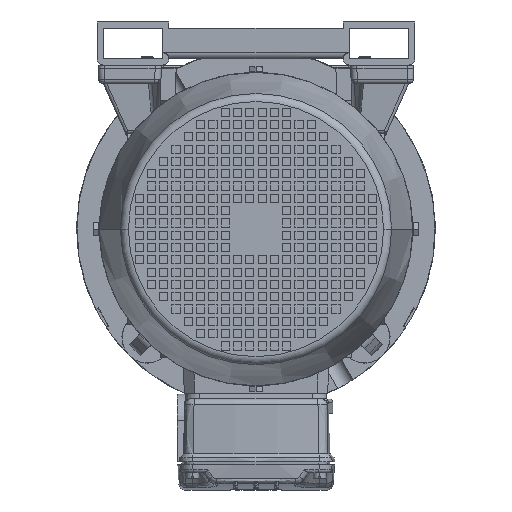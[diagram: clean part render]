
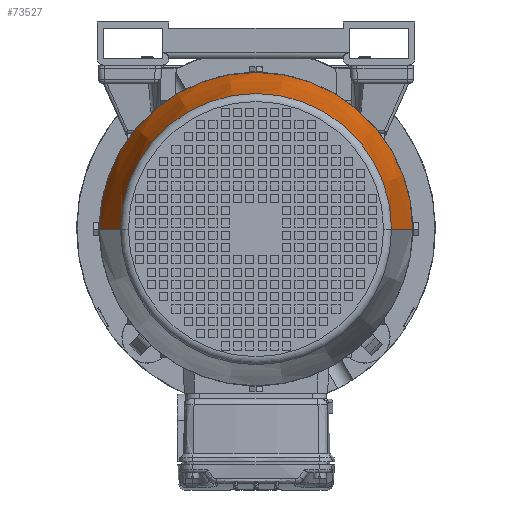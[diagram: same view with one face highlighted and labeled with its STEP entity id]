
A CAD part, front view. The second image highlights one B-rep face of the part: STEP entity #73527.
In plain terms, the highlighted conical face has half-angle 11 degrees and reference radius 132.258 mm.
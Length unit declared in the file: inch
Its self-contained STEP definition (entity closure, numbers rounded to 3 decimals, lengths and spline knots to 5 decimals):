
#4331 = ORIENTED_EDGE ( 'NONE', *, *, #67551, .T. ) ;
#11491 = CARTESIAN_POINT ( 'NONE',  ( 5.20702, 0., -11.12899 ) ) ;
#15956 = VECTOR ( 'NONE', #172128, 39.37008 ) ;
#23878 = CARTESIAN_POINT ( 'NONE',  ( 0., 0., -11.12899 ) ) ;
#33845 = DIRECTION ( 'NONE',  ( 1., 0., 0. ) ) ;
#34919 = CONICAL_SURFACE ( 'NONE', #189367, 5.20702, 0.192 ) ;
#35615 = CARTESIAN_POINT ( 'NONE',  ( 5.20702, 0., -11.12899 ) ) ;
#49939 = DIRECTION ( 'NONE',  ( 1., 0., 0. ) ) ;
#53967 = AXIS2_PLACEMENT_3D ( 'NONE', #187924, #66046, #49939 ) ;
#54624 = DIRECTION ( 'NONE',  ( 0., 0., 1. ) ) ;
#58587 = AXIS2_PLACEMENT_3D ( 'NONE', #23878, #68231, #115550 ) ;
#61362 = CARTESIAN_POINT ( 'NONE',  ( -6.01639, 0., -6.96516 ) ) ;
#66046 = DIRECTION ( 'NONE',  ( 0., 0., 1. ) ) ;
#67551 = EDGE_CURVE ( 'NONE', #120136, #183275, #177653, .T. ) ;
#68231 = DIRECTION ( 'NONE',  ( 0., 0., 1. ) ) ;
#69842 = CARTESIAN_POINT ( 'NONE',  ( -5.20702, 0., -11.12899 ) ) ;
#72920 = DIRECTION ( 'NONE',  ( 0.191, 0., 0.982 ) ) ;
#73527 = ADVANCED_FACE ( 'NONE', ( #100963 ), #34919, .T. ) ;
#73941 = ORIENTED_EDGE ( 'NONE', *, *, #96867, .F. ) ;
#96867 = EDGE_CURVE ( 'NONE', #98620, #127310, #105447, .T. ) ;
#98620 = VERTEX_POINT ( 'NONE', #61362 ) ;
#100963 = FACE_OUTER_BOUND ( 'NONE', #155294, .T. ) ;
#105447 = CIRCLE ( 'NONE', #53967, 6.01639 ) ;
#111123 = VECTOR ( 'NONE', #72920, 39.37008 ) ;
#115550 = DIRECTION ( 'NONE',  ( 1., 0., 0. ) ) ;
#120136 = VERTEX_POINT ( 'NONE', #69842 ) ;
#122156 = EDGE_CURVE ( 'NONE', #183275, #127310, #151474, .T. ) ;
#127310 = VERTEX_POINT ( 'NONE', #141540 ) ;
#131178 = CARTESIAN_POINT ( 'NONE',  ( 0., 0., -11.12899 ) ) ;
#141540 = CARTESIAN_POINT ( 'NONE',  ( 6.01639, 0., -6.96516 ) ) ;
#151474 = LINE ( 'NONE', #11491, #111123 ) ;
#155294 = EDGE_LOOP ( 'NONE', ( #165650, #4331, #160699, #73941 ) ) ;
#156046 = CARTESIAN_POINT ( 'NONE',  ( -5.20702, 0., -11.12899 ) ) ;
#160699 = ORIENTED_EDGE ( 'NONE', *, *, #122156, .T. ) ;
#165650 = ORIENTED_EDGE ( 'NONE', *, *, #193580, .F. ) ;
#170165 = LINE ( 'NONE', #156046, #15956 ) ;
#172128 = DIRECTION ( 'NONE',  ( -0.191, 0., 0.982 ) ) ;
#177653 = CIRCLE ( 'NONE', #58587, 5.20702 ) ;
#183275 = VERTEX_POINT ( 'NONE', #35615 ) ;
#187924 = CARTESIAN_POINT ( 'NONE',  ( 0., 0., -6.96516 ) ) ;
#189367 = AXIS2_PLACEMENT_3D ( 'NONE', #131178, #54624, #33845 ) ;
#193580 = EDGE_CURVE ( 'NONE', #120136, #98620, #170165, .T. ) ;
